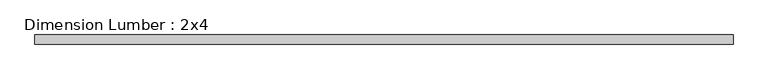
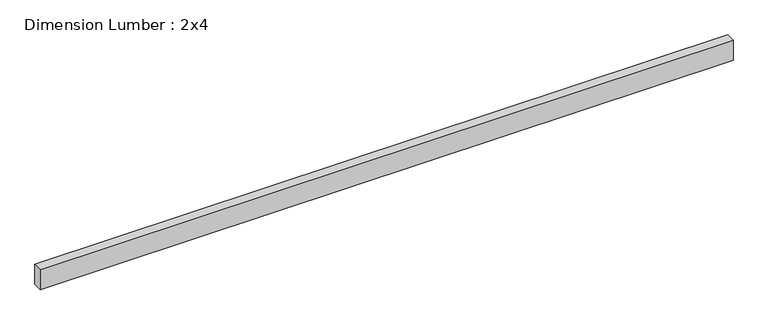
"""IFC4 building model written with IfcOpenShell, lengths in millimetres: beam geometry, Dimension Lumber : 2x4."""

from ifc_helpers import new_model, si_unit, frame, origin, place, context, project, spatial, polyline, outline, extrude, source, transform, mapped, element, save


def dimension_lumber_2x4_9698a521(model_context):
    return source(origin(), model_context, "Body", "SweptSolid", [
        extrude(outline(polyline([(1473.2, 19.05), (1473.2, -19.05), (-1435.1, -19.05), (-1435.1, 19.05), (1473.2, 19.05)])), frame((0.0, 0.0, -44.45), z_axis=(0.0, 0.0, 1.0), x_axis=(1.0, 0.0, 0.0)), (0.0, 0.0, 1.0), 88.9),
    ])


if __name__ == "__main__":
    model = new_model("IFC4")
    model_context = context("Model", 3, world=origin())
    ifc_project = project(units=[si_unit("LENGTHUNIT", "METRE", prefix="MILLI")], contexts=[model_context])
    site = spatial("IfcSite", under=ifc_project)
    building = spatial("IfcBuilding", under=site)
    placement = place(None, origin())
    dimension_lumber_2x4_shape = dimension_lumber_2x4_9698a521(model_context)
    element("IfcBeam", 1, ObjectType="Dimension Lumber : 2x4", at=placement, inside=building, context=model_context, shape_type="MappedRepresentation", body=[
        mapped(dimension_lumber_2x4_shape, transform((0.0, 0.0, 0.0), x_axis=(1.0, 0.0, 0.0), y_axis=(0.0, 1.0, 0.0), z_axis=(0.0, 0.0, 1.0))),
    ])
    save(model, "model.ifc")
